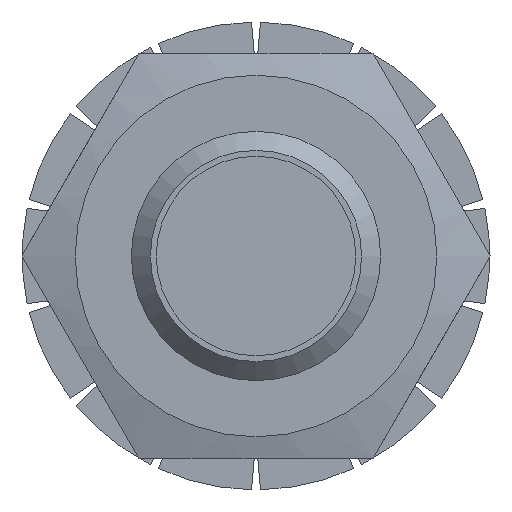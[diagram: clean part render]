
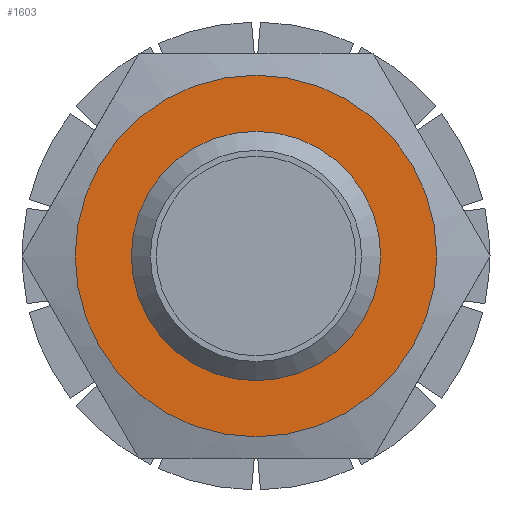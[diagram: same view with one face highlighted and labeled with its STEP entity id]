
A CAD part, left-side view. The second image highlights one B-rep face of the part: STEP entity #1603.
In plain terms, the highlighted planar face has unit normal (-1, 0, 0).
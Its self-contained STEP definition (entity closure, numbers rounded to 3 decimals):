
#34 = EDGE_CURVE ( 'NONE', #3319, #3319, #2419, .T. ) ;
#56 = CARTESIAN_POINT ( 'NONE',  ( -24., 0., -4. ) ) ;
#120 = FACE_OUTER_BOUND ( 'NONE', #1051, .T. ) ;
#265 = EDGE_CURVE ( 'NONE', #3407, #3407, #384, .T. ) ;
#269 = AXIS2_PLACEMENT_3D ( 'NONE', #2679, #3633, #516 ) ;
#374 = FACE_BOUND ( 'NONE', #3071, .T. ) ;
#384 = CIRCLE ( 'NONE', #391, 5.8 ) ;
#391 = AXIS2_PLACEMENT_3D ( 'NONE', #3960, #2065, #551 ) ;
#514 = ORIENTED_EDGE ( 'NONE', *, *, #34, .T. ) ;
#516 = DIRECTION ( 'NONE',  ( 0., 0., 1. ) ) ;
#551 = DIRECTION ( 'NONE',  ( 0., 1., 0. ) ) ;
#841 = PLANE ( 'NONE',  #269 ) ;
#852 = DIRECTION ( 'NONE',  ( 1., 0., 0. ) ) ;
#1051 = EDGE_LOOP ( 'NONE', ( #1707 ) ) ;
#1467 = DIRECTION ( 'NONE',  ( 0., 0., -1. ) ) ;
#1603 = ADVANCED_FACE ( 'NONE', ( #120, #374 ), #841, .F. ) ;
#1707 = ORIENTED_EDGE ( 'NONE', *, *, #265, .F. ) ;
#2065 = DIRECTION ( 'NONE',  ( 1., 0., 0. ) ) ;
#2419 = CIRCLE ( 'NONE', #3781, 4. ) ;
#2679 = CARTESIAN_POINT ( 'NONE',  ( -24., -5.8, 0. ) ) ;
#3071 = EDGE_LOOP ( 'NONE', ( #514 ) ) ;
#3319 = VERTEX_POINT ( 'NONE', #56 ) ;
#3407 = VERTEX_POINT ( 'NONE', #3753 ) ;
#3633 = DIRECTION ( 'NONE',  ( 1., 0., 0. ) ) ;
#3753 = CARTESIAN_POINT ( 'NONE',  ( -24., 5.8, 0. ) ) ;
#3781 = AXIS2_PLACEMENT_3D ( 'NONE', #3989, #852, #1467 ) ;
#3960 = CARTESIAN_POINT ( 'NONE',  ( -24., 0., 0. ) ) ;
#3989 = CARTESIAN_POINT ( 'NONE',  ( -24., 0., 0. ) ) ;
